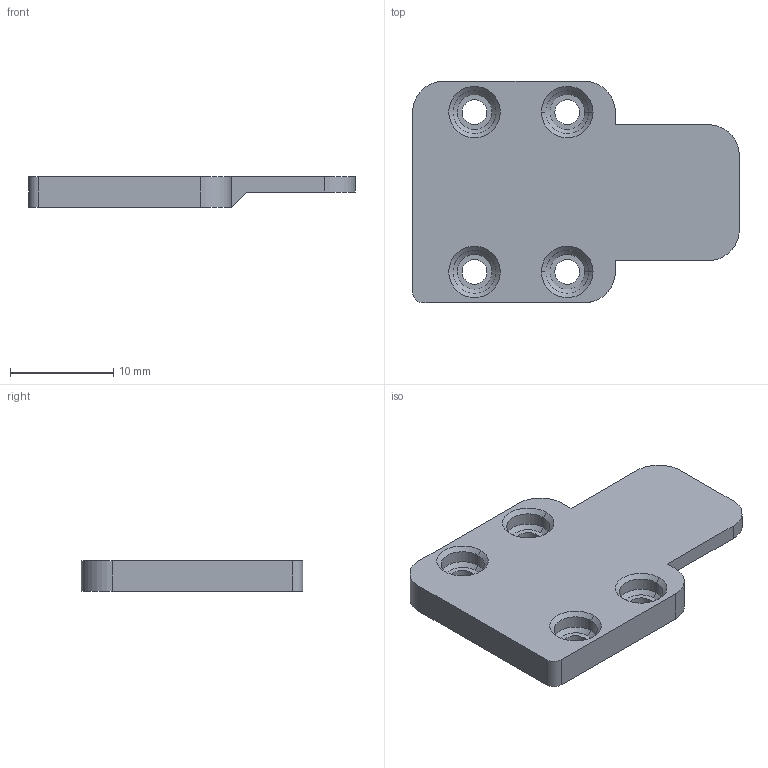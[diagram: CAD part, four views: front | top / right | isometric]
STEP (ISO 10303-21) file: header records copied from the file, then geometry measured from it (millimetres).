
FILE_DESCRIPTION((''),'2;1');
FILE_NAME('11_000_9990001','2024-10-21T08:42:41',('Administrator'),(''),'CREO PARAMETRIC BY PTC INC, 2024063','CREO PARAMETRIC BY PTC INC, 2024063','');
FILE_SCHEMA(('CONFIG_CONTROL_DESIGN'));
Length unit declared in the file: millimetre
Products named in the file (1): 11_000_9990001
Bounding box: 31.7 x 21.5 x 3 mm (x, y, z)
Volume: 1316.7 mm3; surface area: 1501.7 mm2
Topology: 1 solids, 1 shells, 65 faces, 156 edges, 98 vertices
Faces by surface type: cylinder 26, plane 23, cone 16
Entity records: 1948 total; most frequent: DIRECTION 354, CARTESIAN_POINT 319, ORIENTED_EDGE 312, EDGE_CURVE 156, AXIS2_PLACEMENT_3D 133, VERTEX_POINT 98, VECTOR 88, LINE 88
